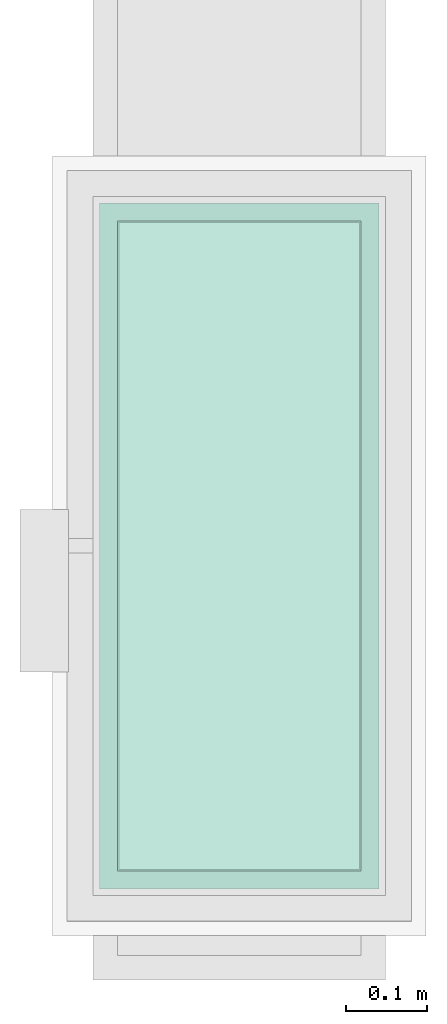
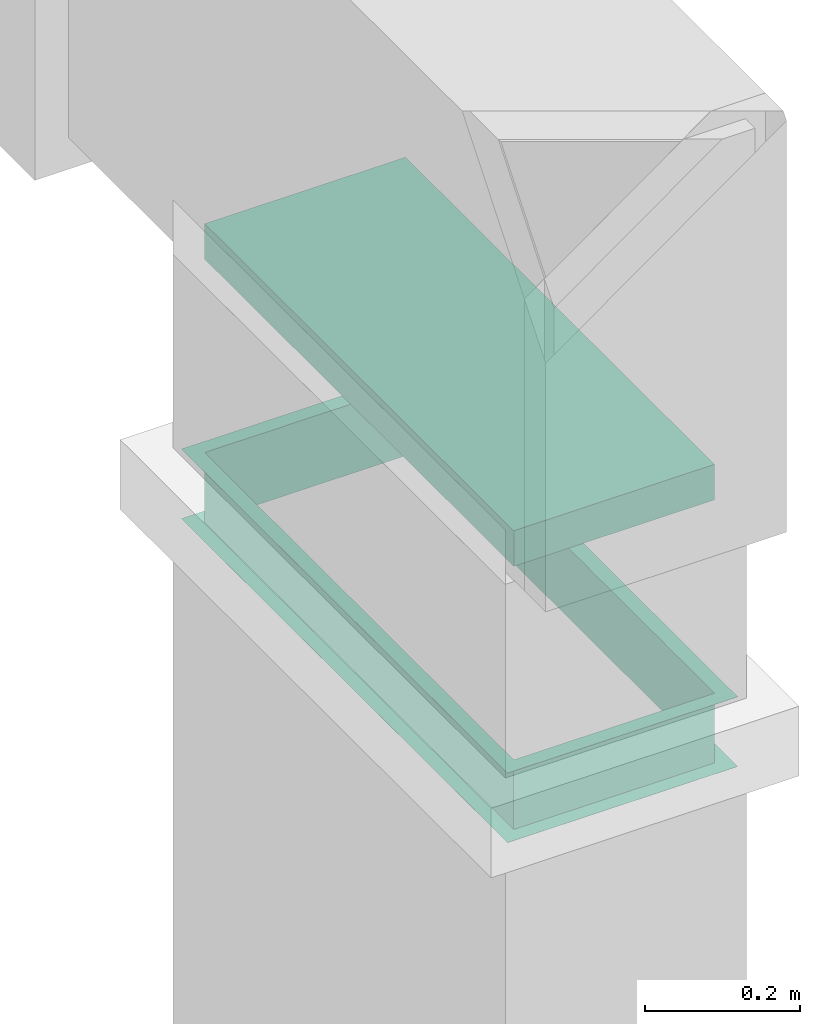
# One storey, part 4 of 4: 1 flow controller, 1 flow fitting.
"""IFC2X3 building model written with IfcOpenShell, lengths in millimetres."""

from ifc_helpers import new_model, entity, si_unit, converted_unit, derived_unit, direction, frame, origin_with_axes, place, context, subcontext, project, spatial, open_shell, surface_model, source, transform, mapped, type_object, element, save


model = new_model("IFC2X3")

# Units and contexts
model_context = context("Model", 3, precision=0.01, world=frame((0.0, 4.29681676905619e-09, 0.0)), true_north=direction((4.01073788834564e-13, 1.0)))
plan_context = context("Plan", 3, precision=0.01, world=frame((0.0, 4.29681676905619e-09, 0.0)), true_north=direction((4.01073788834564e-13, 1.0)))
body_context = subcontext(model_context, "Body", "Model", "MODEL_VIEW")
ifc_project = project(units=[converted_unit("PLANEANGLEUNIT", "DEGREE", entity("IfcPositiveLengthMeasure", 0.0174532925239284), si_unit("PLANEANGLEUNIT", "RADIAN"), dimensions=[0, 0, 0, 0, 0, 0, 0]), si_unit("AREAUNIT", "SQUARE_METRE"), si_unit("LENGTHUNIT", "METRE", prefix="MILLI"), si_unit("MASSUNIT", "GRAM", prefix="KILO"), si_unit("POWERUNIT", "WATT"), si_unit("PRESSUREUNIT", "PASCAL"), si_unit("FORCEUNIT", "NEWTON", prefix="KILO"), si_unit("ELECTRICVOLTAGEUNIT", "VOLT"), si_unit("ELECTRICCURRENTUNIT", "AMPERE"), si_unit("THERMODYNAMICTEMPERATUREUNIT", "DEGREE_CELSIUS"), si_unit("TIMEUNIT", "SECOND"), si_unit("VOLUMEUNIT", "CUBIC_METRE"), derived_unit("LINEARVELOCITYUNIT", [(si_unit("LENGTHUNIT", "METRE"), 1), (si_unit("TIMEUNIT", "SECOND"), -1)]), derived_unit("VOLUMETRICFLOWRATEUNIT", [(si_unit("VOLUMEUNIT", "CUBIC_METRE"), 1), (si_unit("TIMEUNIT", "SECOND"), -1)]), derived_unit("THERMALTRANSMITTANCEUNIT", [(si_unit("POWERUNIT", "WATT"), 1), (si_unit("THERMODYNAMICTEMPERATUREUNIT", "KELVIN"), -1), (si_unit("AREAUNIT", "SQUARE_METRE"), -1)]), derived_unit("SOUNDPRESSUREUNIT", [(si_unit("PRESSUREUNIT", "PASCAL"), 1)])], contexts=[model_context, plan_context])

# Site, building, storey
site_placement = place(None, frame((0.0, -4.29681676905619e-09, 0.0), z_axis=(0.0, 0.0, 1.0), x_axis=(1.0, 0.0, 0.0)))
site = spatial("IfcSite", under=ifc_project, at=site_placement, CompositionType="ELEMENT")
building_placement = place(site_placement, frame((0.0, 4.29681676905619e-09, 0.0), z_axis=(0.0, 0.0, 1.0), x_axis=(1.0, 0.0, 0.0)))
building = spatial("IfcBuilding", under=site, at=building_placement, Name="mc-building", CompositionType="ELEMENT")
storey_placement = place(building_placement, frame((0.0, 0.0, 204000.0), z_axis=(0.0, 0.0, 1.0), x_axis=(1.0, 0.0, 0.0)))
storey = spatial("IfcBuildingStorey", under=building, at=storey_placement, Name="Nivå D", CompositionType="ELEMENT", Elevation=204000.0)

# Flow controller
damper_type = type_object("IfcDamperType", Name="REGO-T-300-800", PredefinedType="BALANCINGDAMPER")
shared_shape_1 = source(origin_with_axes(), body_context, "Body", "SurfaceModel", [
    surface_model("IfcShellBasedSurfaceModel", [(-55.0, -150.0, -400.1), (-55.0, 150.0, -400.1), (55.0, 150.0, -400.1), (55.0, -150.0, -400.1), (55.0, -150.0, -399.90001), (55.0, 150.0, -399.90001), (-55.0, -150.0, -399.90001), (-55.0, 150.0, -399.90001), (-55.0, -150.1, -400.0), (55.0, -150.1, -400.0), (-55.0, -150.1, 400.0), (55.0, -150.1, 400.0), (-55.0, -149.9, 400.0), (55.0, -149.9, 400.0), (-55.0, -149.9, -400.0), (55.0, -149.9, -400.0), (54.9, 172.0, -422.0), (54.9, 150.0, -422.0), (54.9, 150.0, -400.0), (54.9, 172.0, -400.0), (55.1, 172.0, -400.0), (55.1, 150.0, -400.0), (55.1, 150.0, -422.0), (55.1, 172.0, -422.0), (54.9, 150.0, 400.0), (54.9, 172.0, 400.0), (55.1, 172.0, 400.0), (55.1, 150.0, 400.0), (54.9, 150.0, 422.0), (54.9, 172.0, 422.0), (55.1, 172.0, 422.0), (55.1, 150.0, 422.0), (54.9, -150.0, -422.0), (54.9, -150.0, -400.0), (55.1, -150.0, -400.0), (55.1, -150.0, -422.0), (54.9, -172.0, -422.0), (54.9, -172.0, -400.0), (55.1, -172.0, -400.0), (55.1, -172.0, -422.0), (54.9, -172.0, 400.0), (54.9, -150.0, 400.0), (55.1, -150.0, 400.0), (55.1, -172.0, 400.0), (54.9, -172.0, 422.0), (54.9, -150.0, 422.0), (55.1, -150.0, 422.0), (55.1, -172.0, 422.0), (-55.1, 172.0, -422.0), (-55.1, 150.0, -422.0), (-55.1, 150.0, -400.0), (-55.1, 172.0, -400.0), (-54.9, 172.0, -400.0), (-54.9, 150.0, -400.0), (-54.9, 150.0, -422.0), (-54.9, 172.0, -422.0), (-55.1, 150.0, 400.0), (-55.1, 172.0, 400.0), (-54.9, 172.0, 400.0), (-54.9, 150.0, 400.0), (-55.1, 150.0, 422.0), (-55.1, 172.0, 422.0), (-54.9, 172.0, 422.0), (-54.9, 150.0, 422.0), (-55.1, -150.0, -422.0), (-55.1, -150.0, -400.0), (-54.9, -150.0, -400.0), (-54.9, -150.0, -422.0), (-55.1, -172.0, -422.0), (-55.1, -172.0, -400.0), (-54.9, -172.0, -400.0), (-54.9, -172.0, -422.0), (-55.1, -172.0, 400.0), (-55.1, -150.0, 400.0), (-54.9, -150.0, 400.0), (-54.9, -172.0, 400.0), (-55.1, -172.0, 422.0), (-55.1, -150.0, 422.0), (-54.9, -150.0, 422.0), (-54.9, -172.0, 422.0), (-55.0, 149.9, -400.0), (55.0, 149.9, -400.0), (-55.0, 149.9, 400.0), (55.0, 149.9, 400.0), (-55.0, 150.1, 400.0), (55.0, 150.1, 400.0), (-55.0, 150.1, -400.0), (55.0, 150.1, -400.0), (-55.0, -150.0, 399.90001), (-55.0, 150.0, 399.90001), (55.0, 150.0, 399.90001), (55.0, -150.0, 399.90001), (55.0, -150.0, 400.1), (55.0, 150.0, 400.1), (-55.0, -150.0, 400.1), (-55.0, 150.0, 400.1)], [open_shell([[[0, 1, 2]], [[2, 3, 0]], [[4, 5, 6]], [[7, 6, 5]], [[2, 1, 5]], [[7, 5, 1]], [[3, 2, 4]], [[5, 4, 2]], [[0, 3, 4]], [[4, 6, 0]], [[1, 0, 7]], [[6, 7, 0]], [[8, 9, 10]], [[11, 10, 9]], [[12, 13, 14]], [[15, 14, 13]], [[11, 9, 15]], [[15, 13, 11]], [[10, 11, 13]], [[13, 12, 10]], [[8, 10, 12]], [[12, 14, 8]], [[9, 8, 14]], [[14, 15, 9]], [[16, 17, 18]], [[18, 19, 16]], [[20, 21, 22]], [[22, 23, 20]], [[18, 17, 21]], [[22, 21, 17]], [[19, 18, 21]], [[21, 20, 19]], [[16, 19, 23]], [[20, 23, 19]], [[17, 16, 23]], [[23, 22, 17]], [[19, 18, 24]], [[24, 25, 19]], [[26, 27, 21]], [[21, 20, 26]], [[24, 18, 21]], [[21, 27, 24]], [[25, 24, 27]], [[27, 26, 25]], [[19, 25, 26]], [[26, 20, 19]], [[18, 19, 20]], [[20, 21, 18]], [[25, 24, 28]], [[28, 29, 25]], [[30, 31, 27]], [[27, 26, 30]], [[28, 24, 31]], [[27, 31, 24]], [[29, 28, 31]], [[31, 30, 29]], [[25, 29, 26]], [[30, 26, 29]], [[24, 25, 26]], [[26, 27, 24]], [[17, 32, 18]], [[33, 18, 32]], [[21, 34, 35]], [[35, 22, 21]], [[33, 32, 34]], [[35, 34, 32]], [[18, 33, 34]], [[34, 21, 18]], [[17, 18, 22]], [[21, 22, 18]], [[32, 17, 22]], [[22, 35, 32]], [[32, 36, 37]], [[37, 33, 32]], [[34, 38, 39]], [[39, 35, 34]], [[37, 36, 38]], [[39, 38, 36]], [[33, 37, 38]], [[38, 34, 33]], [[32, 33, 35]], [[34, 35, 33]], [[36, 32, 35]], [[35, 39, 36]], [[33, 37, 40]], [[40, 41, 33]], [[42, 43, 38]], [[38, 34, 42]], [[40, 37, 38]], [[38, 43, 40]], [[41, 40, 43]], [[43, 42, 41]], [[33, 41, 42]], [[42, 34, 33]], [[37, 33, 34]], [[34, 38, 37]], [[41, 40, 44]], [[44, 45, 41]], [[46, 47, 43]], [[43, 42, 46]], [[44, 40, 47]], [[43, 47, 40]], [[45, 44, 47]], [[47, 46, 45]], [[41, 45, 42]], [[46, 42, 45]], [[40, 41, 42]], [[42, 43, 40]], [[24, 41, 28]], [[45, 28, 41]], [[31, 46, 42]], [[42, 27, 31]], [[45, 41, 46]], [[42, 46, 41]], [[28, 45, 46]], [[46, 31, 28]], [[24, 28, 27]], [[31, 27, 28]], [[41, 24, 27]], [[27, 42, 41]], [[48, 49, 50]], [[50, 51, 48]], [[52, 53, 54]], [[54, 55, 52]], [[50, 49, 53]], [[54, 53, 49]], [[51, 50, 53]], [[53, 52, 51]], [[48, 51, 55]], [[52, 55, 51]], [[49, 48, 55]], [[55, 54, 49]], [[51, 50, 56]], [[56, 57, 51]], [[58, 59, 53]], [[53, 52, 58]], [[56, 50, 53]], [[53, 59, 56]], [[57, 56, 59]], [[59, 58, 57]], [[51, 57, 58]], [[58, 52, 51]], [[50, 51, 52]], [[52, 53, 50]], [[57, 56, 60]], [[60, 61, 57]], [[62, 63, 59]], [[59, 58, 62]], [[60, 56, 63]], [[59, 63, 56]], [[61, 60, 63]], [[63, 62, 61]], [[57, 61, 58]], [[62, 58, 61]], [[56, 57, 58]], [[58, 59, 56]], [[49, 64, 50]], [[65, 50, 64]], [[53, 66, 67]], [[67, 54, 53]], [[65, 64, 66]], [[67, 66, 64]], [[50, 65, 66]], [[66, 53, 50]], [[49, 50, 54]], [[53, 54, 50]], [[64, 49, 54]], [[54, 67, 64]], [[64, 68, 69]], [[69, 65, 64]], [[66, 70, 71]], [[71, 67, 66]], [[69, 68, 70]], [[71, 70, 68]], [[65, 69, 70]], [[70, 66, 65]], [[64, 65, 67]], [[66, 67, 65]], [[68, 64, 67]], [[67, 71, 68]], [[65, 69, 72]], [[72, 73, 65]], [[74, 75, 70]], [[70, 66, 74]], [[72, 69, 70]], [[70, 75, 72]], [[73, 72, 75]], [[75, 74, 73]], [[65, 73, 74]], [[74, 66, 65]], [[69, 65, 66]], [[66, 70, 69]], [[73, 72, 76]], [[76, 77, 73]], [[78, 79, 75]], [[75, 74, 78]], [[76, 72, 79]], [[75, 79, 72]], [[77, 76, 79]], [[79, 78, 77]], [[73, 77, 74]], [[78, 74, 77]], [[72, 73, 74]], [[74, 75, 72]], [[56, 73, 60]], [[77, 60, 73]], [[63, 78, 74]], [[74, 59, 63]], [[77, 73, 78]], [[74, 78, 73]], [[60, 77, 78]], [[78, 63, 60]], [[56, 60, 59]], [[63, 59, 60]], [[73, 56, 59]], [[59, 74, 73]], [[80, 81, 82]], [[83, 82, 81]], [[84, 85, 86]], [[87, 86, 85]], [[83, 81, 87]], [[87, 85, 83]], [[82, 83, 85]], [[85, 84, 82]], [[80, 82, 84]], [[84, 86, 80]], [[81, 80, 86]], [[86, 87, 81]], [[88, 89, 90]], [[90, 91, 88]], [[92, 93, 94]], [[95, 94, 93]], [[90, 89, 93]], [[95, 93, 89]], [[91, 90, 92]], [[93, 92, 90]], [[88, 91, 92]], [[92, 94, 88]], [[89, 88, 95]], [[94, 95, 88]]])]),
])
flow_controller_placement = place(storey_placement, frame((524180.93348, 456533.17026, 8665.93397000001), z_axis=(0.0, 1.0, 0.0), x_axis=(0.0, 0.0, -1.0)))
element("IfcFlowController", 1, at=flow_controller_placement, inside=storey, type_object=damper_type, Name="REGO-T-300-800", context=body_context, shape_type="MappedRepresentation", body=[
    mapped(shared_shape_1, transform((0.0, 0.0, 0.0), scale=1.0)),
])

# Flow fitting
duct_fitting_type = type_object("IfcDuctFittingType", Name="magirect_outlet1_001 2", PredefinedType="CONNECTOR")
shared_shape_2 = source(origin_with_axes(), body_context, "Body", "SurfaceModel", [
    surface_model("IfcShellBasedSurfaceModel", [(-6.096, 150.0, 400.0), (-6.096, 150.0, -400.0), (-6.096, -150.0, -400.0), (-6.096, -150.0, 400.0), (50.0, 150.0, -400.0), (50.0, 150.0, 400.0), (50.0, -150.0, -400.0), (50.0, -150.0, 400.0)], [open_shell([[[0, 1, 2]], [[2, 3, 0]], [[1, 0, 4]], [[5, 4, 0]], [[2, 1, 6]], [[4, 6, 1]], [[3, 2, 6]], [[6, 7, 3]], [[0, 3, 7]], [[7, 5, 0]], [[4, 5, 6]], [[7, 6, 5]], [[4, 5, 7]], [[7, 6, 4]]])]),
])
flow_fitting_placement = place(storey_placement, frame((524180.93348, 456533.17026, 9076.44604000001), z_axis=(0.0, -1.0, 0.0), x_axis=(0.0, 0.0, -1.0)))
element("IfcFlowFitting", 2, at=flow_fitting_placement, inside=storey, type_object=duct_fitting_type, Name="magirect_outlet1_001 2", context=body_context, shape_type="MappedRepresentation", body=[
    mapped(shared_shape_2, transform((0.0, 0.0, 0.0), scale=1.0)),
])

save(model, "model.ifc")
